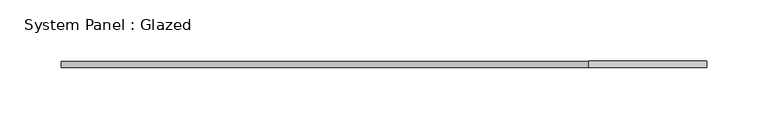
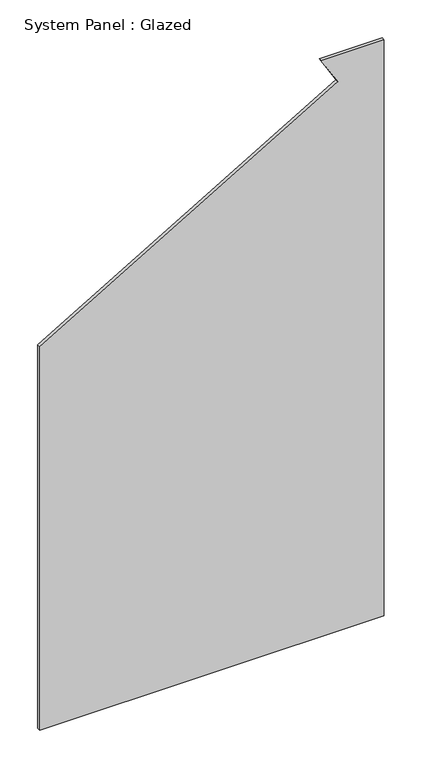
"""IFC4 building model written with IfcOpenShell, lengths in millimetres: plate geometry, System Panel : Glazed."""

from ifc_helpers import new_model, si_unit, frame, origin, place, context, project, spatial, polyline, outline, extrude, source, transform, mapped, element, save


def system_panel_glazed_73a5751a(model_context):
    return source(origin(), model_context, "Body", "SweptSolid", [
        extrude(outline(polyline([(0.0, -262.5), (0.0, 262.5), (927.9584148, 262.5), (927.9584148, 166.6093973), (884.8700593, 191.9746023), (617.3304577, -262.5), (0.0, -262.5)])), frame((0.0, -2.5, 0.0), z_axis=(0.0, 1.0, 0.0), x_axis=(0.0, 0.0, 1.0)), (0.0, 0.0, 1.0), 5.0),
    ])


if __name__ == "__main__":
    model = new_model("IFC4")
    model_context = context("Model", 3, world=origin())
    ifc_project = project(units=[si_unit("LENGTHUNIT", "METRE", prefix="MILLI")], contexts=[model_context])
    site = spatial("IfcSite", under=ifc_project)
    building = spatial("IfcBuilding", under=site)
    placement = place(None, origin())
    system_panel_glazed_shape = system_panel_glazed_73a5751a(model_context)
    element("IfcPlate", 1, ObjectType="System Panel : Glazed", at=placement, inside=building, context=model_context, shape_type="MappedRepresentation", body=[
        mapped(system_panel_glazed_shape, transform((0.0, 0.0, 0.0), x_axis=(1.0, 0.0, 0.0), y_axis=(0.0, 1.0, 0.0), z_axis=(0.0, 0.0, 1.0))),
    ])
    save(model, "model.ifc")
